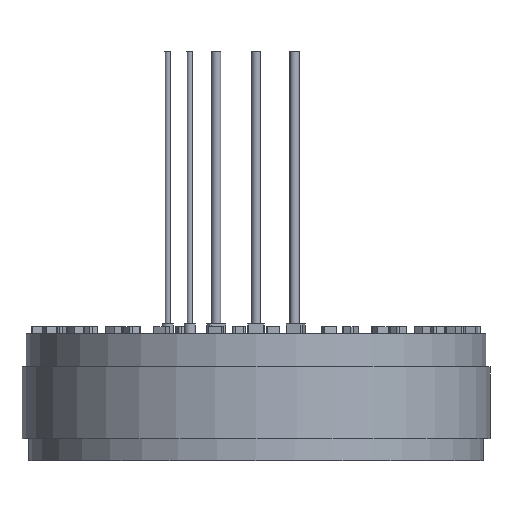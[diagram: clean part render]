
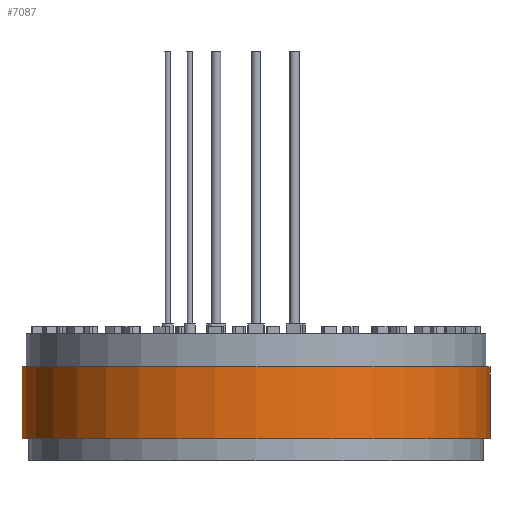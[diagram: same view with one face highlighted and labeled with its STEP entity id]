
A CAD part, front view. The second image highlights one B-rep face of the part: STEP entity #7087.
In plain terms, the highlighted cylindrical face has radius 42.5 mm (diameter 85 mm), a full revolution.
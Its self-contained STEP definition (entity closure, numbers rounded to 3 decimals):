
#7020=CARTESIAN_POINT('',(42.5,0.,0.));
#7021=VERTEX_POINT('',#7020);
#7022=CARTESIAN_POINT('',(0.,0.,0.));
#7023=DIRECTION('',(1.,0.,-0.));
#7024=DIRECTION('',(0.,0.,1.));
#7025=AXIS2_PLACEMENT_3D('',#7022,#7024,#7023);
#7026=CIRCLE('',#7025,42.5);
#7027=EDGE_CURVE('',#7021,#7021,#7026,.T.);
#7048=CARTESIAN_POINT('',(42.5,0.,-13.));
#7049=VERTEX_POINT('',#7048);
#7050=CARTESIAN_POINT('',(0.,0.,-13.));
#7051=DIRECTION('',(1.,0.,-0.));
#7052=DIRECTION('',(0.,0.,1.));
#7053=AXIS2_PLACEMENT_3D('',#7050,#7052,#7051);
#7054=CIRCLE('',#7053,42.5);
#7055=EDGE_CURVE('',#7049,#7049,#7054,.T.);
#7071=CARTESIAN_POINT('',(0.,0.,0.));
#7072=DIRECTION('',(1.,0.,0.));
#7073=DIRECTION('',(0.,0.,-1.));
#7074=AXIS2_PLACEMENT_3D('',#7071,#7073,#7072);
#7075=CYLINDRICAL_SURFACE('',#7074,42.5);
#7076=ORIENTED_EDGE('',*,*,#7027,.T.);
#7077=CARTESIAN_POINT('',(42.5,0.,0.));
#7078=DIRECTION('',(0.,0.,-1.));
#7079=VECTOR('',#7078,13.);
#7080=LINE('',#7077,#7079);
#7081=EDGE_CURVE('',#7021,#7049,#7080,.T.);
#7082=ORIENTED_EDGE('',*,*,#7081,.T.);
#7083=ORIENTED_EDGE('',*,*,#7055,.F.);
#7084=ORIENTED_EDGE('',*,*,#7081,.F.);
#7085=EDGE_LOOP('',(#7076,#7082,#7083,#7084));
#7086=FACE_OUTER_BOUND('',#7085,.F.);
#7087=ADVANCED_FACE('',(#7086),#7075,.T.);
